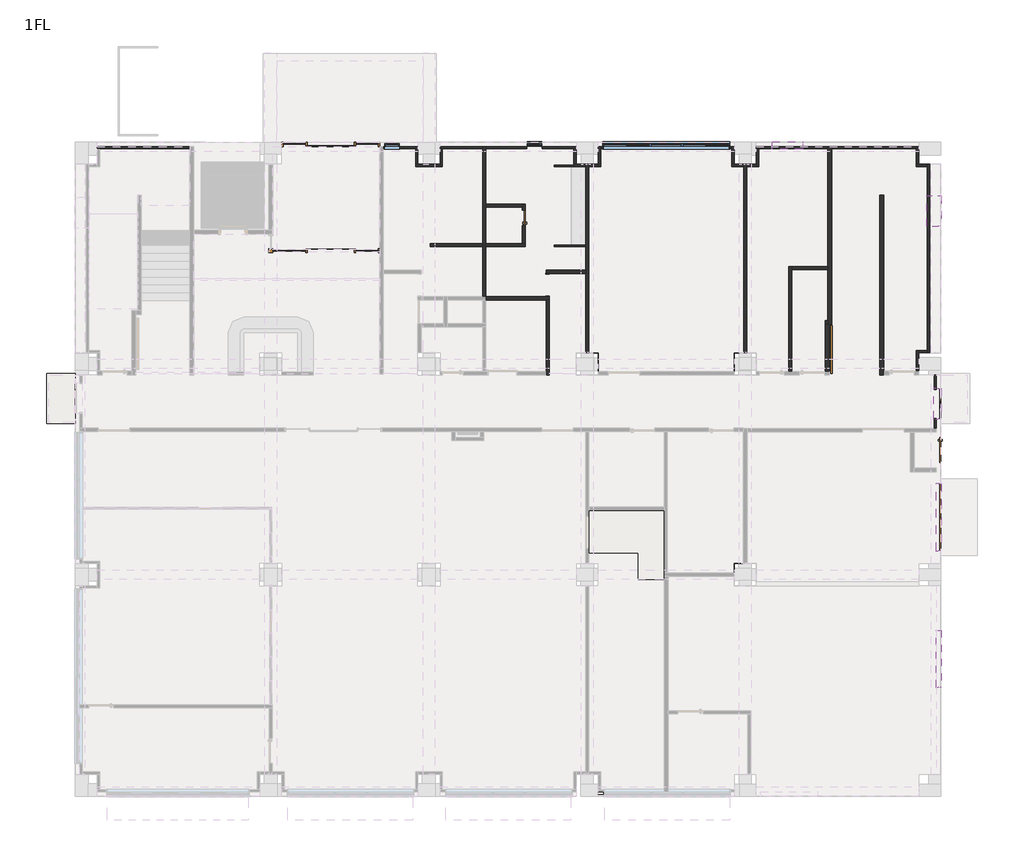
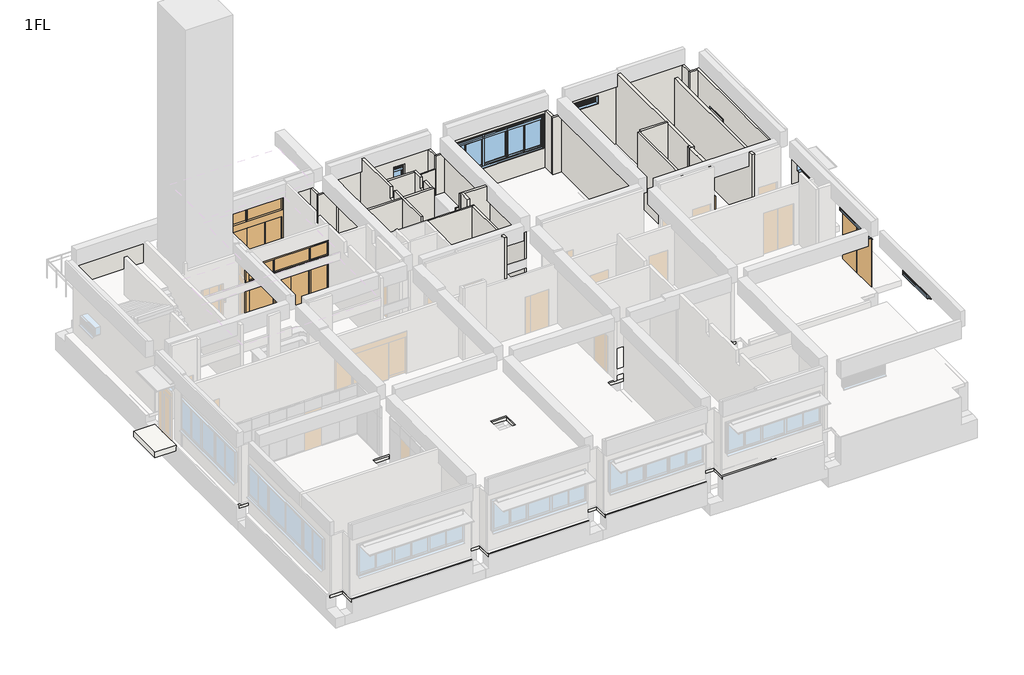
# One storey, part 3 of 7: 39 walls, 8 doors, 8 windows, 2 slabs.
"""IFC4 building model written with IfcOpenShell, lengths in millimetres."""

from ifc_helpers import new_model, si_unit, frame, origin, origin_with_axes, place, context, project, spatial, polyline, outline, extrude, faceted_brep, transform, mapped, element, save
from components import door_14d6dc4f, door_8a3642f0, door_1cafa6bb, door_cb1f44da, door_bdeb8628, door_377da531, sd1a_41ed0b53, sd5_d24b2fea, ag_01_14c91b01, ag_03_a886fbff, ag_04_25b0d088, ag_04_e8160d57, aw4_ca96b354, aw8_65036946, aw8_bb0577f5

model = new_model("IFC4")

# Units and contexts
model_context = context("Model", 3, world=origin())
ifc_project = project(units=[si_unit("LENGTHUNIT", "METRE", prefix="MILLI")], contexts=[model_context])

# Site, building, storey
site = spatial("IfcSite", under=ifc_project)
building = spatial("IfcBuilding", under=site)
storey = spatial("IfcBuildingStorey", under=building, Name="1FL", Elevation=0.0)

# Doors
placement = place(None, origin())
door_shape = door_14d6dc4f(model_context)
element("IfcDoor", 1, ObjectType="営_三方枠 : S1_850*2000", at=placement, inside=storey, context=model_context, shape_type="MappedRepresentation", body=[
    mapped(door_shape, transform((17500.0, 18990.25, 0.0), x_axis=(0.0, 1.0, 0.0), y_axis=(-1.0, 0.0, 0.0), z_axis=(0.0, 0.0, 1.0))),
])
door_2_shape = door_8a3642f0(model_context)
element("IfcDoor", 2, ObjectType="営_両開き扉 : SD2 2500*2585", at=placement, inside=storey, context=model_context, shape_type="MappedRepresentation", body=[
    mapped(door_2_shape, transform((32335.0, 10180.0, 0.0), x_axis=(0.0, -1.0, 0.0), y_axis=(1.0, 0.0, 0.0), z_axis=(0.0, 0.0, 1.0))),
])
door_3_shape = door_1cafa6bb(model_context)
element("IfcDoor", 3, ObjectType="営_片開き扉 : SD6 950*2685", at=placement, inside=storey, context=model_context, shape_type="MappedRepresentation", body=[
    mapped(door_3_shape, transform((32335.0, 12730.0, 0.0), x_axis=(0.0, -1.0, 0.0), y_axis=(1.0, 0.0, 0.0), z_axis=(0.0, 0.0, 1.0))),
])
door_4_shape = door_cb1f44da(model_context)
element("IfcDoor", 4, ObjectType="営_片開き扉 : SD7 600*2000", at=placement, inside=storey, context=model_context, shape_type="MappedRepresentation", body=[
    mapped(door_4_shape, transform((16600.0, 21540.0, 0.0), x_axis=(0.0, 1.0, 0.0), y_axis=(-1.0, 0.0, 0.0), z_axis=(0.0, 0.0, 1.0))),
])
door_5_shape = door_bdeb8628(model_context)
element("IfcDoor", 5, ObjectType="営_自動ドア 両引き+ランマ1b : SSD1b 4005*3100", at=placement, inside=storey, context=model_context, shape_type="MappedRepresentation", body=[
    mapped(door_5_shape, transform((9280.0, 20310.0, 0.0), x_axis=(1.0, 0.0, 0.0), y_axis=(0.0, 1.0, 0.0), z_axis=(0.0, 0.0, 1.0))),
])
door_6_shape = door_377da531(model_context)
element("IfcDoor", 6, ObjectType="営_自動ドア 両引き+ランマ : SSD1a 3600*3100", at=placement, inside=storey, context=model_context, shape_type="MappedRepresentation", body=[
    mapped(door_6_shape, transform((9280.0, 24325.0, 0.0), x_axis=(-1.0, 0.0, 0.0), y_axis=(0.0, -1.0, 0.0), z_axis=(0.0, 0.0, 1.0))),
])
sd1a_shape = sd1a_41ed0b53(model_context)
element("IfcDoor", 7, ObjectType="営_親子扉+ランマ : SD1a", at=placement, inside=storey, context=model_context, shape_type="MappedRepresentation", body=[
    mapped(sd1a_shape, transform((32335.0, 14480.0, 0.0), x_axis=(0.0, -1.0, 0.0), y_axis=(1.0, 0.0, 0.0), z_axis=(0.0, 0.0, 1.0))),
])
sd5_shape = sd5_d24b2fea(model_context)
element("IfcDoor", 8, ObjectType="営_随閉扉 B階段 1F : SD5", at=placement, inside=storey, context=model_context, shape_type="MappedRepresentation", body=[
    mapped(sd5_shape, transform((28100.0, 16540.0, 0.0), x_axis=(0.0, -1.0, 0.0), y_axis=(1.0, 0.0, 0.0), z_axis=(0.0, 0.0, 1.0))),
])

# Slabs
element("IfcSlab", 9, ObjectType="(外床)エントランス 300", at=placement, inside=storey, context=model_context, shape_type="SweptSolid", body=[
    extrude(outline(polyline([(-1505.0, 15630.0), (-420.0, 15630.0), (-420.0, 13730.0), (-1505.0, 13730.0), (-1505.0, 15630.0)])), frame((0.0, 0.0, -300.0), z_axis=(0.0, 0.0, 1.0), x_axis=(1.0, 0.0, 0.0)), (0.0, 0.0, 1.0), 300.0),
])
element("IfcSlab", 10, ObjectType="(RC)150", at=placement, inside=storey, context=model_context, shape_type="Brep", body=[
    faceted_brep([(19420.0, 15640.0, -250.0), (19420.0, 15755.0, -250.0), (19420.0, 16225.0, -250.0), (19420.0, 16420.0, -250.0), (19225.0, 16420.0, -250.0), (19000.0, 16420.0, -250.0), (19000.0, 23580.0, -250.0), (19225.0, 23580.0, -250.0), (19420.0, 23580.0, -250.0), (19420.0, 23950.0, -250.0), (19420.0, 24250.0, -250.0), (24580.0, 24250.0, -250.0), (24580.0, 23950.0, -250.0), (24580.0, 23580.0, -250.0), (24775.0, 23580.0, -250.0), (25000.0, 23580.0, -250.0), (25000.0, 16420.0, -250.0), (24775.0, 16420.0, -250.0), (24580.0, 16420.0, -250.0), (24580.0, 16225.0, -250.0), (24580.0, 15755.0, -250.0), (24580.0, 15640.0, -250.0), (19420.0, 16420.0, -100.0), (19420.0, 15640.0, -100.0), (24580.0, 15640.0, -100.0), (24580.0, 16420.0, -100.0), (24775.0, 16420.0, -100.0), (25000.0, 16420.0, -100.0), (25000.0, 23580.0, -100.0), (24775.0, 23580.0, -100.0), (24580.0, 23580.0, -100.0), (24580.0, 23950.0, -100.0), (24580.0, 24250.0, -100.0), (19420.0, 24250.0, -100.0), (19420.0, 23950.0, -100.0), (19420.0, 23580.0, -100.0), (19225.0, 23580.0, -100.0), (19000.0, 23580.0, -100.0), (19000.0, 16420.0, -100.0), (19225.0, 16420.0, -100.0), (25000.0, 16420.0, -160.0), (25000.0, 23580.0, -160.0), (19420.0, 15640.0, -160.0), (24580.0, 15640.0, -160.0), (19000.0, 16420.0, -160.0), (19000.0, 23580.0, -160.0)], [[[0, 1, 2, 3, 4, 5, 6, 7, 8, 9, 10, 11, 12, 13, 14, 15, 16, 17, 18, 19, 20, 21]], [[22, 23, 24, 25, 26, 27, 28, 29, 30, 31, 32, 33, 34, 35, 36, 37, 38, 39]], [[27, 40, 16, 15, 41, 28]], [[23, 42, 0, 21, 43, 24]], [[5, 44, 38, 37, 45, 6]], [[10, 33, 32, 11]], [[22, 3, 2, 1, 0, 42, 23]], [[3, 22, 39, 38, 44, 5, 4]], [[18, 25, 24, 43, 21, 20, 19]], [[25, 18, 17, 16, 40, 27, 26]], [[8, 35, 34, 33, 10, 9]], [[35, 8, 7, 6, 45, 37, 36]], [[13, 30, 29, 28, 41, 15, 14]], [[30, 13, 12, 11, 32, 31]]]),
    faceted_brep([(19000.0, 13500.0, -250.0), (19245.0, 13500.0, -250.0), (24755.0, 13500.0, -250.0), (25175.0, 13500.0, -250.0), (25175.0, 8420.0, -250.0), (24755.0, 8420.0, -250.0), (24580.0, 8420.0, -250.0), (24580.0, 8245.0, -250.0), (24580.0, 7825.0, -250.0), (22175.0, 7825.0, -250.0), (22175.0, 7775.0, -250.0), (22175.0, 5508.0, -250.0), (22175.0, 5158.0, -250.0), (22175.0, 2835.0, -250.0), (22175.0, 2485.0, -250.0), (22175.0, 50.0, -250.0), (22175.0, -335.0, -250.0), (19420.0, -335.0, -250.0), (19420.0, 50.0, -250.0), (19420.0, 420.0, -250.0), (19225.0, 420.0, -250.0), (18755.0, 420.0, -250.0), (18580.0, 420.0, -250.0), (18580.0, 70.0, -250.0), (18580.0, -335.0, -250.0), (13420.0, -335.0, -250.0), (13420.0, 70.0, -250.0), (13420.0, 420.0, -250.0), (13245.0, 420.0, -250.0), (12755.0, 420.0, -250.0), (12580.0, 420.0, -250.0), (12580.0, 70.0, -250.0), (12580.0, -335.0, -250.0), (7420.0, -335.0, -250.0), (7420.0, 70.0, -250.0), (7420.0, 420.0, -250.0), (7245.0, 420.0, -250.0), (6755.0, 420.0, -250.0), (6580.0, 420.0, -250.0), (6580.0, 70.0, -250.0), (6580.0, -335.0, -250.0), (420.0, -335.0, -250.0), (420.0, 70.0, -250.0), (420.0, 420.0, -250.0), (70.0, 420.0, -250.0), (-250.0, 420.0, -250.0), (-250.0, 7580.0, -250.0), (70.0, 7580.0, -250.0), (420.0, 7580.0, -250.0), (420.0, 7755.0, -250.0), (420.0, 8245.0, -250.0), (420.0, 8420.0, -250.0), (70.0, 8420.0, -250.0), (-250.0, 8420.0, -250.0), (-250.0, 13500.0, -250.0), (70.0, 13500.0, -250.0), (6755.0, 13500.0, -250.0), (7245.0, 13500.0, -250.0), (12755.0, 13500.0, -250.0), (13245.0, 13500.0, -250.0), (18755.0, 13500.0, -250.0), (7420.0, 7580.0, -250.0), (7420.0, 7755.0, -250.0), (7420.0, 8245.0, -250.0), (7420.0, 8420.0, -250.0), (7245.0, 8420.0, -250.0), (6755.0, 8420.0, -250.0), (6580.0, 8420.0, -250.0), (6580.0, 8245.0, -250.0), (6580.0, 7755.0, -250.0), (6580.0, 7580.0, -250.0), (6755.0, 7580.0, -250.0), (7245.0, 7580.0, -250.0), (13420.0, 7580.0, -250.0), (13420.0, 7755.0, -250.0), (13420.0, 8245.0, -250.0), (13420.0, 8420.0, -250.0), (13245.0, 8420.0, -250.0), (12755.0, 8420.0, -250.0), (12580.0, 8420.0, -250.0), (12580.0, 8245.0, -250.0), (12580.0, 7755.0, -250.0), (12580.0, 7580.0, -250.0), (12755.0, 7580.0, -250.0), (13245.0, 7580.0, -250.0), (19420.0, 7580.0, -250.0), (19420.0, 7775.0, -250.0), (19420.0, 8245.0, -250.0), (19420.0, 8420.0, -250.0), (19245.0, 8420.0, -250.0), (18755.0, 8420.0, -250.0), (18580.0, 8420.0, -250.0), (18580.0, 8245.0, -250.0), (18580.0, 7755.0, -250.0), (18580.0, 7580.0, -250.0), (18755.0, 7580.0, -250.0), (19225.0, 7580.0, -250.0), (25175.0, 13500.0, -100.0), (25000.0, 13500.0, -100.0), (19000.0, 13500.0, -100.0), (-250.0, 13500.0, -100.0), (-250.0, 8420.0, -100.0), (420.0, 8420.0, -100.0), (420.0, 7580.0, -100.0), (-250.0, 7580.0, -100.0), (-250.0, 420.0, -100.0), (420.0, 420.0, -100.0), (420.0, -335.0, -100.0), (6580.0, -335.0, -100.0), (6580.0, 420.0, -100.0), (7420.0, 420.0, -100.0), (7420.0, -335.0, -100.0), (12580.0, -335.0, -100.0), (12580.0, 420.0, -100.0), (13420.0, 420.0, -100.0), (13420.0, -335.0, -100.0), (18580.0, -335.0, -100.0), (18580.0, 420.0, -100.0), (18755.0, 420.0, -100.0), (19225.0, 420.0, -100.0), (19420.0, 420.0, -100.0), (19420.0, -335.0, -100.0), (22175.0, -335.0, -100.0), (22175.0, -250.0, -100.0), (22175.0, 7825.0, -100.0), (24580.0, 7825.0, -100.0), (24580.0, 8000.0, -100.0), (24580.0, 8420.0, -100.0), (25000.0, 8420.0, -100.0), (25175.0, 8420.0, -100.0), (7420.0, 8420.0, -100.0), (7420.0, 7580.0, -100.0), (6580.0, 7580.0, -100.0), (6580.0, 8420.0, -100.0), (13420.0, 8420.0, -100.0), (13420.0, 7580.0, -100.0), (12580.0, 7580.0, -100.0), (12580.0, 8420.0, -100.0), (19420.0, 8420.0, -100.0), (19420.0, 7580.0, -100.0), (19225.0, 7580.0, -100.0), (18755.0, 7580.0, -100.0), (18580.0, 7580.0, -100.0), (18580.0, 8420.0, -100.0), (25175.0, 13500.0, -160.0), (25175.0, 8420.0, -160.0), (22175.0, 7825.0, -160.0), (24580.0, 7825.0, -160.0), (-250.0, 13500.0, -160.0)], [[[0, 1, 2, 3, 4, 5, 6, 7, 8, 9, 10, 11, 12, 13, 14, 15, 16, 17, 18, 19, 20, 21, 22, 23, 24, 25, 26, 27, 28, 29, 30, 31, 32, 33, 34, 35, 36, 37, 38, 39, 40, 41, 42, 43, 44, 45, 46, 47, 48, 49, 50, 51, 52, 53, 54, 55, 56, 57, 58, 59, 60], [61, 62, 63, 64, 65, 66, 67, 68, 69, 70, 71, 72], [73, 74, 75, 76, 77, 78, 79, 80, 81, 82, 83, 84], [85, 86, 87, 88, 89, 90, 91, 92, 93, 94, 95, 96]], [[97, 98, 99, 100, 101, 102, 103, 104, 105, 106, 107, 108, 109, 110, 111, 112, 113, 114, 115, 116, 117, 118, 119, 120, 121, 122, 123, 124, 125, 126, 127, 128, 129], [130, 131, 132, 133], [134, 135, 136, 137], [138, 139, 140, 141, 142, 143]], [[3, 2, 1, 0, 99, 98, 97, 144]], [[3, 144, 97, 129, 145, 4]], [[124, 146, 9, 8, 147, 125]], [[16, 15, 14, 13, 12, 11, 10, 9, 146, 124, 123, 122]], [[40, 108, 107, 41]], [[111, 33, 32, 112]], [[115, 25, 24, 116]], [[16, 122, 121, 17]], [[100, 148, 54, 53, 101]], [[45, 105, 104, 46]], [[0, 60, 59, 58, 57, 56, 55, 54, 148, 100, 99]], [[110, 35, 34, 33, 111]], [[38, 109, 108, 40, 39]], [[109, 38, 37, 36, 35, 110]], [[114, 27, 26, 25, 115]], [[30, 113, 112, 32, 31]], [[113, 30, 29, 28, 27, 114]], [[120, 19, 18, 17, 121]], [[22, 117, 116, 24, 23]], [[117, 22, 21, 20, 19, 120, 119, 118]], [[106, 43, 42, 41, 107]], [[43, 106, 105, 45, 44]], [[61, 131, 130, 64, 63, 62]], [[131, 61, 72, 71, 70, 132]], [[132, 70, 69, 68, 67, 133]], [[133, 67, 66, 65, 64, 130]], [[73, 135, 134, 76, 75, 74]], [[135, 73, 84, 83, 82, 136]], [[136, 82, 81, 80, 79, 137]], [[137, 79, 78, 77, 76, 134]], [[85, 139, 138, 88, 87, 86]], [[139, 85, 96, 95, 94, 142, 141, 140]], [[142, 94, 93, 92, 91, 143]], [[143, 91, 90, 89, 88, 138]], [[6, 127, 126, 125, 147, 8, 7]], [[127, 6, 5, 4, 145, 129, 128]], [[48, 103, 102, 51, 50, 49]], [[103, 48, 47, 46, 104]], [[51, 102, 101, 53, 52]]]),
])

# Walls
element("IfcWall", 11, ObjectType="(内壁)W4", at=placement, inside=storey, context=model_context, shape_type="Brep", body=[
    faceted_brep([(19060.0, 16420.0, 0.0), (19060.0, 23490.0, 0.0), (19060.0, 23580.0, 0.0), (19060.0, 23580.0, 3100.0), (19060.0, 23490.0, 3100.0), (19060.0, 16420.0, 3100.0), (18940.0, 23580.0, 0.0), (18940.0, 23490.0, 0.0), (18940.0, 19550.0, 0.0), (18940.0, 19430.0, 0.0), (18940.0, 16420.0, 0.0), (18940.0, 16420.0, 3100.0), (18940.0, 19430.0, 3100.0), (18940.0, 19550.0, 3100.0), (18940.0, 23490.0, 3100.0), (18940.0, 23580.0, 3100.0)], [[[0, 1, 2, 3, 4, 5]], [[6, 7, 8, 9, 10, 11, 12, 13, 14, 15]], [[0, 10, 9, 8, 7, 6, 2, 1]], [[10, 0, 5, 11]], [[2, 6, 15, 3]], [[5, 4, 3, 15, 14, 13, 12, 11]]]),
])
element("IfcWall", 12, ObjectType="(内壁)W3", at=placement, inside=storey, context=model_context, shape_type="Brep", body=[
    faceted_brep([(25060.0, 16420.0, 0.0), (25060.0, 23490.0, 0.0), (25060.0, 23580.0, 0.0), (25060.0, 23580.0, 3100.0), (25060.0, 23490.0, 3100.0), (25060.0, 16420.0, 3100.0), (24940.0, 23580.0, 0.0), (24940.0, 23490.0, 0.0), (24940.0, 16420.0, 0.0), (24940.0, 16420.0, 3100.0), (24940.0, 23490.0, 3100.0), (24940.0, 23580.0, 3100.0)], [[[0, 1, 2, 3, 4, 5]], [[6, 7, 8, 9, 10, 11]], [[0, 8, 7, 6, 2, 1]], [[8, 0, 5, 9]], [[2, 6, 11, 3]], [[5, 4, 3, 11, 10, 9]]]),
])
element("IfcWall", 13, ObjectType="(内壁)150_RC", at=placement, inside=storey, context=model_context, shape_type="Brep", body=[
    faceted_brep([(28125.0, 24250.0, 0.0), (28125.0, 19695.0, 0.0), (28125.0, 19575.0, 0.0), (28125.0, 17645.0, 0.0), (28125.0, 17495.0, 0.0), (28125.0, 17495.0, 3850.0), (28125.0, 17645.0, 3850.0), (28125.0, 24250.0, 3850.0), (28275.0, 24250.0, 0.0), (28275.0, 24250.0, 3850.0), (28275.0, 17495.0, 3850.0), (28275.0, 17495.0, 0.0), (28175.0, 17495.0, 0.0), (28175.0, 17495.0, 3850.0)], [[[0, 1, 2, 3, 4, 5, 6, 7]], [[8, 9, 10, 11]], [[4, 3, 2, 1, 0, 8, 11, 12]], [[7, 6, 5, 13, 10, 9]], [[5, 4, 12, 11, 10, 13]], [[0, 7, 9, 8]]]),
])
element("IfcWall", 14, ObjectType="(内壁)150_RC", at=placement, inside=storey, context=model_context, shape_type="SweptSolid", body=[
    extrude(outline(polyline([(28025.0, 17645.0), (28125.0, 17645.0), (28125.0, 17495.0), (28025.0, 17495.0), (28025.0, 17645.0)])), origin_with_axes(), (0.0, 0.0, 1.0), 3850.0),
])
element("IfcWall", 15, ObjectType="(内壁)150_RC", at=placement, inside=storey, context=model_context, shape_type="Brep", body=[
    faceted_brep([(28025.0, 17495.0, 0.0), (28025.0, 15700.0, 0.0), (28025.0, 15700.0, 3850.0), (28025.0, 15825.0, 3850.0), (28025.0, 15825.0, 3150.0), (28025.0, 16175.0, 3150.0), (28025.0, 16175.0, 3850.0), (28025.0, 17495.0, 3850.0), (28175.0, 15700.0, 0.0), (28175.0, 17495.0, 0.0), (28175.0, 17495.0, 3850.0), (28175.0, 16175.0, 3850.0), (28175.0, 16175.0, 3150.0), (28175.0, 15825.0, 3150.0), (28175.0, 15825.0, 3850.0), (28175.0, 15700.0, 3850.0), (28125.0, 17495.0, 0.0), (28125.0, 17495.0, 3850.0)], [[[0, 1, 2, 3, 4, 5, 6, 7]], [[8, 9, 10, 11, 12, 13, 14, 15]], [[1, 0, 16, 9, 8]], [[2, 15, 14, 3]], [[10, 17, 7, 6, 11]], [[0, 7, 17, 10, 9, 16]], [[2, 1, 8, 15]], [[13, 4, 3, 14]], [[4, 13, 12, 5]], [[5, 12, 11, 6]]]),
])
element("IfcWall", 16, ObjectType="(内壁)150_RC", at=placement, inside=storey, context=model_context, shape_type="Brep", body=[
    faceted_brep([(30105.0, 22410.0, 0.0), (30105.0, 15580.0, 0.0), (30105.0, 15580.0, 3920.0), (30105.0, 15825.0, 3920.0), (30105.0, 15825.0, 3150.0), (30105.0, 16175.0, 3150.0), (30105.0, 16175.0, 3920.0), (30105.0, 22410.0, 3920.0), (30255.0, 15580.0, 0.0), (30255.0, 15730.0, 0.0), (30255.0, 22410.0, 0.0), (30255.0, 22410.0, 3920.0), (30255.0, 16175.0, 3920.0), (30255.0, 16175.0, 3150.0), (30255.0, 15825.0, 3150.0), (30255.0, 15825.0, 3920.0), (30255.0, 15580.0, 3920.0), (30255.0, 15580.0, 3850.0)], [[[0, 1, 2, 3, 4, 5, 6, 7]], [[8, 9, 10, 11, 12, 13, 14, 15, 16, 17]], [[1, 0, 10, 9, 8]], [[11, 7, 6, 12]], [[2, 16, 15, 3]], [[0, 7, 11, 10]], [[14, 4, 3, 15]], [[4, 14, 13, 5]], [[5, 13, 12, 6]], [[2, 1, 8, 17, 16]]]),
])
element("IfcWall", 17, ObjectType="(内壁)W4", at=placement, inside=storey, context=model_context, shape_type="Brep", body=[
    faceted_brep([(15040.0, 24250.0, 0.0), (15040.0, 24160.0, 0.0), (15040.0, 20570.0, 0.0), (15040.0, 20450.0, 0.0), (15040.0, 18550.0, 0.0), (15040.0, 18550.0, 3250.0), (15040.0, 18845.0, 3250.0), (15040.0, 18845.0, 3850.0), (15040.0, 20450.0, 3850.0), (15040.0, 20570.0, 3850.0), (15040.0, 21165.0, 3850.0), (15040.0, 21165.0, 3250.0), (15040.0, 21515.0, 3250.0), (15040.0, 21515.0, 3850.0), (15040.0, 24050.0, 3850.0), (15040.0, 24050.0, 3150.0), (15040.0, 24250.0, 3150.0), (15040.0, 24250.0, 3100.0), (15160.0, 18550.0, 0.0), (15160.0, 20450.0, 0.0), (15160.0, 20570.0, 0.0), (15160.0, 21950.0, 0.0), (15160.0, 22070.0, 0.0), (15160.0, 24160.0, 0.0), (15160.0, 24250.0, 0.0), (15160.0, 24250.0, 3100.0), (15160.0, 24250.0, 3150.0), (15160.0, 24050.0, 3150.0), (15160.0, 24050.0, 3850.0), (15160.0, 22070.0, 3850.0), (15160.0, 21950.0, 3850.0), (15160.0, 21515.0, 3850.0), (15160.0, 21515.0, 3250.0), (15160.0, 21165.0, 3250.0), (15160.0, 21165.0, 3850.0), (15160.0, 20570.0, 3850.0), (15160.0, 20450.0, 3850.0), (15160.0, 18845.0, 3850.0), (15160.0, 18845.0, 3250.0), (15160.0, 18550.0, 3250.0)], [[[0, 1, 2, 3, 4, 5, 6, 7, 8, 9, 10, 11, 12, 13, 14, 15, 16, 17]], [[18, 19, 20, 21, 22, 23, 24, 25, 26, 27, 28, 29, 30, 31, 32, 33, 34, 35, 36, 37, 38, 39]], [[4, 3, 2, 1, 0, 24, 23, 22, 21, 20, 19, 18]], [[28, 14, 13, 31, 30, 29]], [[7, 37, 36, 35, 34, 10, 9, 8]], [[24, 0, 17, 16, 26, 25]], [[27, 15, 14, 28]], [[15, 27, 26, 16]], [[38, 6, 5, 39]], [[6, 38, 37, 7]], [[33, 11, 10, 34]], [[11, 33, 32, 12]], [[12, 32, 31, 13]], [[4, 18, 39, 5]]]),
])
element("IfcWall", 18, ObjectType="(内壁)W4", at=placement, inside=storey, context=model_context, shape_type="Brep", body=[
    faceted_brep([(17440.0, 18430.0, 0.0), (17440.0, 15700.0, 0.0), (17440.0, 15580.0, 0.0), (17440.0, 15580.0, 3850.0), (17440.0, 15700.0, 3850.0), (17440.0, 15825.0, 3850.0), (17440.0, 15825.0, 3150.0), (17440.0, 16175.0, 3150.0), (17440.0, 16175.0, 3850.0), (17440.0, 18430.0, 3850.0), (17560.0, 15580.0, 0.0), (17560.0, 18430.0, 0.0), (17560.0, 18430.0, 3850.0), (17560.0, 16175.0, 3850.0), (17560.0, 16175.0, 3150.0), (17560.0, 15825.0, 3150.0), (17560.0, 15825.0, 3850.0), (17560.0, 15580.0, 3850.0)], [[[0, 1, 2, 3, 4, 5, 6, 7, 8, 9]], [[10, 11, 12, 13, 14, 15, 16, 17]], [[2, 1, 0, 11, 10]], [[12, 9, 8, 13]], [[3, 17, 16, 5, 4]], [[0, 9, 12, 11]], [[3, 2, 10, 17]], [[15, 6, 5, 16]], [[6, 15, 14, 7]], [[7, 14, 13, 8]]]),
])
element("IfcWall", 19, ObjectType="(内壁)W4", at=placement, inside=storey, context=model_context, shape_type="SweptSolid", body=[
    extrude(outline(polyline([(0.0, 13040.0), (0.0, 15040.0), (3850.0, 15040.0), (3850.0, 13225.0), (3100.0, 13225.0), (3100.0, 13040.0), (0.0, 13040.0)])), frame((0.0, 20450.0, 0.0), z_axis=(0.0, 1.0, 0.0), x_axis=(0.0, 0.0, 1.0)), (0.0, 0.0, 1.0), 120.0),
])
element("IfcWall", 20, ObjectType="(内壁)W3", at=placement, inside=storey, context=model_context, shape_type="Brep", body=[
    faceted_brep([(16660.0, 20570.0, 3850.0), (16660.0, 20570.0, 0.0), (16660.0, 21240.0, 0.0), (16660.0, 21240.0, 2000.0), (16660.0, 21840.0, 2000.0), (16660.0, 21840.0, 0.0), (16660.0, 22070.0, 0.0), (16660.0, 22070.0, 3850.0), (16660.0, 21515.0, 3850.0), (16660.0, 21515.0, 3250.0), (16660.0, 21165.0, 3250.0), (16660.0, 21165.0, 3850.0), (16540.0, 20570.0, 0.0), (16540.0, 20570.0, 3850.0), (16540.0, 21165.0, 3850.0), (16540.0, 21165.0, 3250.0), (16540.0, 21515.0, 3250.0), (16540.0, 21515.0, 3850.0), (16540.0, 21950.0, 3850.0), (16540.0, 22070.0, 3850.0), (16540.0, 22070.0, 0.0), (16540.0, 21950.0, 0.0), (16540.0, 21840.0, 0.0), (16540.0, 21840.0, 2000.0), (16540.0, 21240.0, 2000.0), (16540.0, 21240.0, 0.0)], [[[0, 1, 2, 3, 4, 5, 6, 7, 8, 9, 10, 11]], [[12, 13, 14, 15, 16, 17, 18, 19, 20, 21, 22, 23, 24, 25]], [[1, 12, 25, 2]], [[20, 6, 5, 22, 21]], [[13, 0, 11, 14]], [[7, 19, 18, 17, 8]], [[1, 0, 13, 12]], [[7, 6, 20, 19]], [[25, 24, 3, 2]], [[23, 22, 5, 4]], [[24, 23, 4, 3]], [[10, 15, 14, 11]], [[15, 10, 9, 16]], [[16, 9, 8, 17]]]),
])
element("IfcWall", 21, ObjectType="(内壁)W3", at=placement, inside=storey, context=model_context, shape_type="SweptSolid", body=[
    extrude(outline(polyline([(15160.0, 22070.0), (16540.0, 22070.0), (16540.0, 21950.0), (15160.0, 21950.0), (15160.0, 22070.0)])), origin_with_axes(), (0.0, 0.0, 1.0), 3850.0),
])
element("IfcWall", 22, ObjectType="(内壁)W4", at=placement, inside=storey, context=model_context, shape_type="Brep", body=[
    faceted_brep([(17440.0, 19430.0, 0.0), (17560.0, 19430.0, 0.0), (18940.0, 19430.0, 0.0), (18940.0, 19430.0, 3100.0), (18775.0, 19430.0, 3100.0), (18775.0, 19430.0, 3850.0), (17440.0, 19430.0, 3850.0), (18940.0, 19550.0, 0.0), (17440.0, 19550.0, 0.0), (17440.0, 19550.0, 3850.0), (18775.0, 19550.0, 3850.0), (18775.0, 19550.0, 3100.0), (18940.0, 19550.0, 3100.0)], [[[0, 1, 2, 3, 4, 5, 6]], [[7, 8, 9, 10, 11, 12]], [[2, 1, 0, 8, 7]], [[9, 6, 5, 10]], [[2, 7, 12, 3]], [[11, 4, 3, 12]], [[4, 11, 10, 5]], [[0, 6, 9, 8]]]),
])
element("IfcWall", 23, ObjectType="(内壁)W3", at=placement, inside=storey, context=model_context, shape_type="Brep", body=[
    faceted_brep([(26640.0, 19695.0, 0.0), (26640.0, 15700.0, 0.0), (26640.0, 15700.0, 3850.0), (26640.0, 15825.0, 3850.0), (26640.0, 15825.0, 3150.0), (26640.0, 16175.0, 3150.0), (26640.0, 16175.0, 3850.0), (26640.0, 19695.0, 3850.0), (26760.0, 15700.0, 0.0), (26760.0, 19575.0, 0.0), (26760.0, 19695.0, 0.0), (26760.0, 19695.0, 3850.0), (26760.0, 16175.0, 3850.0), (26760.0, 16175.0, 3150.0), (26760.0, 15825.0, 3150.0), (26760.0, 15825.0, 3850.0), (26760.0, 15700.0, 3850.0)], [[[0, 1, 2, 3, 4, 5, 6, 7]], [[8, 9, 10, 11, 12, 13, 14, 15, 16]], [[1, 0, 10, 9, 8]], [[11, 7, 6, 12]], [[2, 16, 15, 3]], [[0, 7, 11, 10]], [[2, 1, 8, 16]], [[14, 4, 3, 15]], [[4, 14, 13, 5]], [[5, 13, 12, 6]]]),
])
element("IfcWall", 24, ObjectType="(内壁)W3", at=placement, inside=storey, context=model_context, shape_type="Brep", body=[
    faceted_brep([(26760.0, 19575.0, 0.0), (28125.0, 19575.0, 0.0), (28125.0, 19575.0, 3940.0), (26760.0, 19575.0, 3940.0), (26760.0, 19695.0, 0.0), (26760.0, 19695.0, 3850.0), (26760.0, 19695.0, 3940.0), (28125.0, 19695.0, 3940.0), (28125.0, 19695.0, 0.0)], [[[0, 1, 2, 3]], [[4, 5, 6, 7, 8]], [[1, 0, 4, 8]], [[3, 2, 7, 6]], [[0, 3, 6, 5, 4]], [[2, 1, 8, 7]]]),
])
element("IfcWall", 25, ObjectType="(内壁)120_部屋境界OFF", at=placement, inside=storey, context=model_context, shape_type="Brep", body=[
    faceted_brep([(17560.0, 18550.0, 0.0), (17560.0, 18555.25, 0.0), (17560.0, 18555.25, 2010.0), (17560.0, 19425.25, 2010.0), (17560.0, 19425.25, 0.0), (17560.0, 19430.0, 0.0), (17560.0, 19430.0, 3950.0), (17560.0, 18845.0, 3950.0), (17560.0, 18845.0, 3250.0), (17560.0, 18550.0, 3250.0), (17440.0, 18555.25, 0.0), (17440.0, 18550.0, 0.0), (17440.0, 18550.0, 3250.0), (17440.0, 18845.0, 3250.0), (17440.0, 18845.0, 3950.0), (17440.0, 19430.0, 3950.0), (17440.0, 19430.0, 3850.0), (17440.0, 19430.0, 0.0), (17440.0, 19425.25, 0.0), (17440.0, 19425.25, 2010.0), (17440.0, 18555.25, 2010.0)], [[[0, 1, 2, 3, 4, 5, 6, 7, 8, 9]], [[10, 11, 12, 13, 14, 15, 16, 17, 18, 19, 20]], [[0, 11, 10, 1]], [[5, 4, 18, 17]], [[6, 15, 14, 7]], [[11, 0, 9, 12]], [[6, 5, 17, 16, 15]], [[20, 2, 1, 10]], [[2, 20, 19, 3]], [[3, 19, 18, 4]], [[8, 13, 12, 9]], [[13, 8, 7, 14]]]),
])
element("IfcWall", 26, ObjectType="(内壁)W3", at=placement, inside=storey, context=model_context, shape_type="Brep", body=[
    faceted_brep([(15160.0, 20450.0, 0.0), (16660.0, 20450.0, 0.0), (16660.0, 20450.0, 3850.0), (15160.0, 20450.0, 3850.0), (15160.0, 20570.0, 0.0), (15160.0, 20570.0, 3850.0), (16540.0, 20570.0, 3850.0), (16660.0, 20570.0, 3850.0), (16660.0, 20570.0, 0.0), (16540.0, 20570.0, 0.0)], [[[0, 1, 2, 3]], [[4, 5, 6, 7, 8, 9]], [[1, 0, 4, 9, 8]], [[3, 2, 7, 6, 5]], [[2, 1, 8, 7]], [[0, 3, 5, 4]]]),
])
element("IfcWall", 27, ObjectType="(内壁)ブース壁", at=placement, inside=storey, context=model_context, shape_type="SweptSolid", body=[
    extrude(outline(polyline([(17760.0, 20500.0), (18940.0, 20500.0), (18940.0, 20450.0), (17760.0, 20450.0), (17760.0, 20500.0)])), origin_with_axes(), (0.0, 0.0, 1.0), 2400.0),
])
element("IfcWall", 28, ObjectType="(内壁)ブース壁", at=placement, inside=storey, context=model_context, shape_type="SweptSolid", body=[
    extrude(outline(polyline([(17750.0, 23540.0), (18490.0, 23540.0), (18490.0, 23490.0), (17750.0, 23490.0), (17750.0, 23540.0)])), origin_with_axes(), (0.0, 0.0, 1.0), 2400.0),
])
element("IfcWall", 29, ObjectType="(内壁)W5", at=placement, inside=storey, context=model_context, shape_type="SweptSolid", body=[
    extrude(outline(polyline([(13555.0, 3100.0), (15580.0, 3100.0), (15580.0, 0.0), (15035.0, 0.0), (15035.0, 2570.0), (13925.0, 2570.0), (13925.0, 0.0), (13555.0, 0.0), (13555.0, 3100.0)]), holes=[polyline([(13895.0, 3070.0), (13895.0, 2650.0), (15075.0, 2650.0), (15075.0, 3070.0), (13895.0, 3070.0)])]), frame((32160.0, 0.0, 0.0), z_axis=(1.0, 0.0, 0.0), x_axis=(0.0, 1.0, 0.0)), (0.0, 0.0, 1.0), 90.0),
])
element("IfcWall", 30, ObjectType="(内壁)W5", at=placement, inside=storey, context=model_context, shape_type="Brep", body=[
    faceted_brep([(3925.0, 24250.0, 0.0), (420.0, 24250.0, 0.0), (420.0, 24250.0, 3100.0), (3925.0, 24250.0, 3100.0), (3925.0, 24160.0, 0.0), (3925.0, 24160.0, 3100.0), (510.0, 24160.0, 3100.0), (420.0, 24160.0, 3100.0), (420.0, 24160.0, 0.0), (510.0, 24160.0, 0.0)], [[[0, 1, 2, 3]], [[4, 5, 6, 7, 8, 9]], [[1, 0, 4, 9, 8]], [[3, 2, 7, 6, 5]], [[0, 3, 5, 4]], [[2, 1, 8, 7]]]),
])
element("IfcWall", 31, ObjectType="(内壁)W5", at=placement, inside=storey, context=model_context, shape_type="Brep", body=[
    faceted_brep([(13420.0, 24250.0, 0.0), (13420.0, 24250.0, 3100.0), (15040.0, 24250.0, 3100.0), (15040.0, 24250.0, 0.0), (13420.0, 24160.0, 3100.0), (13420.0, 24160.0, 0.0), (13510.0, 24160.0, 0.0), (15040.0, 24160.0, 0.0), (15040.0, 24160.0, 3100.0), (13510.0, 24160.0, 3100.0)], [[[0, 1, 2, 3]], [[4, 5, 6, 7, 8, 9]], [[5, 0, 3, 7, 6]], [[1, 4, 9, 8, 2]], [[1, 0, 5, 4]], [[3, 2, 8, 7]]]),
    faceted_brep([(18580.0, 24250.0, 3100.0), (18580.0, 24250.0, 0.0), (17290.0, 24250.0, 0.0), (17290.0, 24250.0, 2720.0), (16710.0, 24250.0, 2720.0), (16710.0, 24250.0, 0.0), (15160.0, 24250.0, 0.0), (15160.0, 24250.0, 3100.0), (18580.0, 24160.0, 0.0), (18580.0, 24160.0, 3100.0), (18490.0, 24160.0, 3100.0), (15160.0, 24160.0, 3100.0), (15160.0, 24160.0, 0.0), (16710.0, 24160.0, 0.0), (16710.0, 24160.0, 2720.0), (17290.0, 24160.0, 2720.0), (17290.0, 24160.0, 0.0), (18490.0, 24160.0, 0.0)], [[[0, 1, 2, 3, 4, 5, 6, 7]], [[8, 9, 10, 11, 12, 13, 14, 15, 16, 17]], [[1, 8, 17, 16, 2]], [[5, 13, 12, 6]], [[9, 0, 7, 11, 10]], [[1, 0, 9, 8]], [[7, 6, 12, 11]], [[4, 14, 13, 5]], [[15, 3, 2, 16]], [[14, 4, 3, 15]]]),
])
element("IfcWall", 32, ObjectType="(内壁)W5", at=placement, inside=storey, context=model_context, shape_type="Brep", body=[
    faceted_brep([(13420.0, 24160.0, 0.0), (13420.0, 23580.0, 0.0), (13420.0, 23490.0, 0.0), (13420.0, 23490.0, 3100.0), (13420.0, 23580.0, 3100.0), (13420.0, 24160.0, 3100.0), (13510.0, 24160.0, 0.0), (13510.0, 24160.0, 3100.0), (13510.0, 23490.0, 3100.0), (13510.0, 23490.0, 0.0)], [[[0, 1, 2, 3, 4, 5]], [[6, 7, 8, 9]], [[2, 1, 0, 6, 9]], [[5, 4, 3, 8, 7]], [[0, 5, 7, 6]], [[3, 2, 9, 8]]]),
])
element("IfcWall", 33, ObjectType="(内壁)W5", at=placement, inside=storey, context=model_context, shape_type="Brep", body=[
    faceted_brep([(13420.0, 23580.0, 0.0), (12580.0, 23580.0, 0.0), (12490.0, 23580.0, 0.0), (12490.0, 23580.0, 3100.0), (12580.0, 23580.0, 3100.0), (13420.0, 23580.0, 3100.0), (13420.0, 23490.0, 0.0), (13420.0, 23490.0, 3100.0), (12490.0, 23490.0, 3100.0), (12490.0, 23490.0, 0.0)], [[[0, 1, 2, 3, 4, 5]], [[6, 7, 8, 9]], [[2, 1, 0, 6, 9]], [[5, 4, 3, 8, 7]], [[0, 5, 7, 6]], [[3, 2, 9, 8]]]),
])
element("IfcWall", 34, ObjectType="(内壁)W5", at=placement, inside=storey, context=model_context, shape_type="Brep", body=[
    faceted_brep([(12580.0, 23580.0, 0.0), (12580.0, 24250.0, 0.0), (12580.0, 24250.0, 3100.0), (12580.0, 23580.0, 3100.0), (12490.0, 23580.0, 0.0), (12490.0, 23580.0, 3100.0), (12490.0, 24160.0, 3100.0), (12490.0, 24250.0, 3100.0), (12490.0, 24250.0, 0.0), (12490.0, 24160.0, 0.0)], [[[0, 1, 2, 3]], [[4, 5, 6, 7, 8, 9]], [[1, 0, 4, 9, 8]], [[3, 2, 7, 6, 5]], [[0, 3, 5, 4]], [[2, 1, 8, 7]]]),
])
element("IfcWall", 35, ObjectType="(内壁)W5", at=placement, inside=storey, context=model_context, shape_type="SweptSolid", body=[
    extrude(outline(polyline([(0.0, 11260.0), (0.0, 12490.0), (3100.0, 12490.0), (3100.0, 11260.0), (0.0, 11260.0)]), holes=[polyline([(2795.0, 11890.0), (40.0, 11890.0), (40.0, 11310.0), (2795.0, 11310.0), (2795.0, 11890.0)])]), frame((0.0, 24160.0, 0.0), z_axis=(0.0, 1.0, 0.0), x_axis=(0.0, 0.0, 1.0)), (0.0, 0.0, 1.0), 90.0),
])
element("IfcWall", 36, ObjectType="(内壁)W5", at=placement, inside=storey, context=model_context, shape_type="Brep", body=[
    faceted_brep([(19420.0, 24250.0, 0.0), (19420.0, 23580.0, 0.0), (19420.0, 23490.0, 0.0), (19420.0, 23490.0, 3100.0), (19420.0, 23580.0, 3100.0), (19420.0, 24250.0, 3100.0), (19510.0, 24250.0, 0.0), (19510.0, 24250.0, 3100.0), (19510.0, 23490.0, 3100.0), (19510.0, 23490.0, 0.0)], [[[0, 1, 2, 3, 4, 5]], [[6, 7, 8, 9]], [[2, 1, 0, 6, 9]], [[5, 4, 3, 8, 7]], [[0, 5, 7, 6]], [[3, 2, 9, 8]]]),
])
element("IfcWall", 37, ObjectType="(内壁)W5", at=placement, inside=storey, context=model_context, shape_type="Brep", body=[
    faceted_brep([(19420.0, 23580.0, 3100.0), (19420.0, 23580.0, 0.0), (19060.0, 23580.0, 0.0), (19060.0, 23580.0, 3100.0), (19420.0, 23490.0, 0.0), (19420.0, 23490.0, 3100.0), (19060.0, 23490.0, 3100.0), (19060.0, 23490.0, 0.0)], [[[0, 1, 2, 3]], [[4, 5, 6, 7]], [[1, 4, 7, 2]], [[5, 0, 3, 6]], [[1, 0, 5, 4]], [[3, 2, 7, 6]]]),
    faceted_brep([(18490.0, 23580.0, 0.0), (18490.0, 23580.0, 3100.0), (18580.0, 23580.0, 3100.0), (18940.0, 23580.0, 3100.0), (18940.0, 23580.0, 0.0), (18580.0, 23580.0, 0.0), (18490.0, 23490.0, 3100.0), (18490.0, 23490.0, 0.0), (18940.0, 23490.0, 0.0), (18940.0, 23490.0, 3100.0)], [[[0, 1, 2, 3, 4, 5]], [[6, 7, 8, 9]], [[7, 0, 5, 4, 8]], [[1, 6, 9, 3, 2]], [[1, 0, 7, 6]], [[4, 3, 9, 8]]]),
])
element("IfcWall", 38, ObjectType="(内壁)W5", at=placement, inside=storey, context=model_context, shape_type="SweptSolid", body=[
    extrude(outline(polyline([(18580.0, 24160.0), (18580.0, 23580.0), (18490.0, 23580.0), (18490.0, 24160.0), (18580.0, 24160.0)])), origin_with_axes(), (0.0, 0.0, 1.0), 3100.0),
])
element("IfcWall", 39, ObjectType="(内壁)W5", at=placement, inside=storey, context=model_context, shape_type="Brep", body=[
    faceted_brep([(32000.0, 16420.0, 0.0), (32000.0, 23580.0, 0.0), (32000.0, 23580.0, 3100.0), (32000.0, 16420.0, 3100.0), (31910.0, 16420.0, 0.0), (31910.0, 16420.0, 3100.0), (31910.0, 16510.0, 3100.0), (31910.0, 23490.0, 3100.0), (31910.0, 23580.0, 3100.0), (31910.0, 23580.0, 0.0), (31910.0, 23490.0, 0.0), (31910.0, 16510.0, 0.0)], [[[0, 1, 2, 3]], [[4, 5, 6, 7, 8, 9, 10, 11]], [[1, 0, 4, 11, 10, 9]], [[3, 2, 8, 7, 6, 5]], [[2, 1, 9, 8]], [[0, 3, 5, 4]]]),
])
element("IfcWall", 40, ObjectType="(内壁)W5", at=placement, inside=storey, context=model_context, shape_type="Brep", body=[
    faceted_brep([(31910.0, 23580.0, 0.0), (31580.0, 23580.0, 0.0), (31490.0, 23580.0, 0.0), (31490.0, 23580.0, 3100.0), (31580.0, 23580.0, 3100.0), (31910.0, 23580.0, 3100.0), (31910.0, 23490.0, 0.0), (31910.0, 23490.0, 3100.0), (31490.0, 23490.0, 3100.0), (31490.0, 23490.0, 0.0)], [[[0, 1, 2, 3, 4, 5]], [[6, 7, 8, 9]], [[2, 1, 0, 6, 9]], [[5, 4, 3, 8, 7]], [[0, 5, 7, 6]], [[3, 2, 9, 8]]]),
])
element("IfcWall", 41, ObjectType="(内壁)W5", at=placement, inside=storey, context=model_context, shape_type="SweptSolid", body=[
    extrude(outline(polyline([(31580.0, 24250.0), (31580.0, 23580.0), (31490.0, 23580.0), (31490.0, 24250.0), (31580.0, 24250.0)])), origin_with_axes(), (0.0, 0.0, 1.0), 3100.0),
])
element("IfcWall", 42, ObjectType="(内壁)W5", at=placement, inside=storey, context=model_context, shape_type="Brep", body=[
    faceted_brep([(31490.0, 24250.0, 0.0), (25420.0, 24250.0, 0.0), (25420.0, 24250.0, 3150.0), (31490.0, 24250.0, 3150.0), (31490.0, 24250.0, 3100.0), (27190.0, 24250.0, 2515.0), (27190.0, 24250.0, 2935.0), (26010.0, 24250.0, 2935.0), (26010.0, 24250.0, 2515.0), (25420.0, 24160.0, 0.0), (25510.0, 24160.0, 0.0), (31490.0, 24160.0, 0.0), (31490.0, 24160.0, 3150.0), (25420.0, 24160.0, 3150.0), (25420.0, 24160.0, 3100.0), (27190.0, 24160.0, 2935.0), (27190.0, 24160.0, 2515.0), (26010.0, 24160.0, 2515.0), (26010.0, 24160.0, 2935.0)], [[[0, 1, 2, 3, 4], [5, 6, 7, 8]], [[9, 10, 11, 12, 13, 14], [15, 16, 17, 18]], [[1, 0, 11, 10, 9]], [[3, 2, 13, 12]], [[0, 4, 3, 12, 11]], [[2, 1, 9, 14, 13]], [[15, 6, 5, 16]], [[17, 8, 7, 18]], [[16, 5, 8, 17]], [[6, 15, 18, 7]]]),
])
element("IfcWall", 43, ObjectType="(内壁)W5", at=placement, inside=storey, context=model_context, shape_type="Brep", body=[
    faceted_brep([(25420.0, 24160.0, 0.0), (25420.0, 23580.0, 0.0), (25420.0, 23490.0, 0.0), (25420.0, 23490.0, 3100.0), (25420.0, 23580.0, 3100.0), (25420.0, 24160.0, 3100.0), (25510.0, 24160.0, 0.0), (25510.0, 24160.0, 3100.0), (25510.0, 23490.0, 3100.0), (25510.0, 23490.0, 0.0)], [[[0, 1, 2, 3, 4, 5]], [[6, 7, 8, 9]], [[2, 1, 0, 6, 9]], [[5, 4, 3, 8, 7]], [[0, 5, 7, 6]], [[3, 2, 9, 8]]]),
])
element("IfcWall", 44, ObjectType="(内壁)W5", at=placement, inside=storey, context=model_context, shape_type="Brep", body=[
    faceted_brep([(25420.0, 23580.0, 3100.0), (25420.0, 23580.0, 0.0), (25060.0, 23580.0, 0.0), (25060.0, 23580.0, 3100.0), (25420.0, 23490.0, 0.0), (25420.0, 23490.0, 3100.0), (25060.0, 23490.0, 3100.0), (25060.0, 23490.0, 0.0)], [[[0, 1, 2, 3]], [[4, 5, 6, 7]], [[1, 4, 7, 2]], [[5, 0, 3, 6]], [[1, 0, 5, 4]], [[3, 2, 7, 6]]]),
    faceted_brep([(24490.0, 23580.0, 0.0), (24490.0, 23580.0, 3100.0), (24580.0, 23580.0, 3100.0), (24940.0, 23580.0, 3100.0), (24940.0, 23580.0, 0.0), (24580.0, 23580.0, 0.0), (24490.0, 23490.0, 3100.0), (24490.0, 23490.0, 0.0), (24940.0, 23490.0, 0.0), (24940.0, 23490.0, 3100.0)], [[[0, 1, 2, 3, 4, 5]], [[6, 7, 8, 9]], [[7, 0, 5, 4, 8]], [[1, 6, 9, 3, 2]], [[1, 0, 7, 6]], [[4, 3, 9, 8]]]),
])
element("IfcWall", 45, ObjectType="(内壁)W5", at=placement, inside=storey, context=model_context, shape_type="SweptSolid", body=[
    extrude(outline(polyline([(24580.0, 24250.0), (24580.0, 23580.0), (24490.0, 23580.0), (24490.0, 24250.0), (24580.0, 24250.0)])), origin_with_axes(), (0.0, 0.0, 1.0), 3100.0),
])
element("IfcWall", 46, ObjectType="(内壁)W5", at=placement, inside=storey, context=model_context, shape_type="SweptSolid", body=[
    extrude(outline(polyline([(0.0, 19510.0), (0.0, 24490.0), (3100.0, 24490.0), (3100.0, 19510.0), (0.0, 19510.0)]), holes=[polyline([(2920.0, 24410.0), (1065.0, 24410.0), (1065.0, 19590.0), (2920.0, 19590.0), (2920.0, 24410.0)])]), frame((0.0, 24160.0, 0.0), z_axis=(0.0, 1.0, 0.0), x_axis=(0.0, 0.0, 1.0)), (0.0, 0.0, 1.0), 90.0),
])
element("IfcWall", 47, ObjectType="(内壁)W5", at=placement, inside=storey, context=model_context, shape_type="Brep", body=[
    faceted_brep([(31580.0, 15730.0, 0.0), (31580.0, 16420.0, 0.0), (31580.0, 16510.0, 0.0), (31580.0, 16510.0, 3100.0), (31580.0, 16420.0, 3100.0), (31580.0, 15730.0, 3100.0), (31490.0, 15730.0, 0.0), (31490.0, 15730.0, 3100.0), (31490.0, 16510.0, 3100.0), (31490.0, 16510.0, 0.0)], [[[0, 1, 2, 3, 4, 5]], [[6, 7, 8, 9]], [[2, 1, 0, 6, 9]], [[5, 4, 3, 8, 7]], [[3, 2, 9, 8]], [[0, 5, 7, 6]]]),
])
element("IfcWall", 48, ObjectType="(内壁)W5", at=placement, inside=storey, context=model_context, shape_type="SweptSolid", body=[
    extrude(outline(polyline([(31910.0, 16420.0), (31580.0, 16420.0), (31580.0, 16510.0), (31910.0, 16510.0), (31910.0, 16420.0)])), origin_with_axes(), (0.0, 0.0, 1.0), 3100.0),
])
element("IfcWall", 49, ObjectType="(内壁)W4", at=placement, inside=storey, context=model_context, shape_type="Brep", body=[
    faceted_brep([(15160.0, 18430.0, 0.0), (17440.0, 18430.0, 0.0), (17560.0, 18430.0, 0.0), (17560.0, 18430.0, 3850.0), (17440.0, 18430.0, 3850.0), (15160.0, 18430.0, 3850.0), (17560.0, 18550.0, 0.0), (17440.0, 18550.0, 0.0), (15160.0, 18550.0, 0.0), (15160.0, 18550.0, 3250.0), (17440.0, 18550.0, 3250.0), (17560.0, 18550.0, 3250.0), (17560.0, 18495.0, 3850.0), (15160.0, 18495.0, 3850.0), (17560.0, 18495.0, 3250.0), (15160.0, 18495.0, 3250.0)], [[[0, 1, 2, 3, 4, 5]], [[6, 7, 8, 9, 10, 11]], [[2, 1, 0, 8, 7, 6]], [[5, 4, 3, 12, 13]], [[3, 2, 6, 11, 14, 12]], [[14, 15, 13, 12]], [[15, 14, 11, 10, 9]], [[0, 5, 13, 15, 9, 8]]]),
])

# Windows
ag_01_shape = ag_01_14c91b01(model_context)
element("IfcWindow", 50, ObjectType="営_単窓_ガラリ : AG-01", at=placement, inside=storey, context=model_context, shape_type="MappedRepresentation", body=[
    mapped(ag_01_shape, transform((32335.0, 4800.0, 1400.0), x_axis=(0.0, -1.0, 0.0), y_axis=(1.0, 0.0, 0.0), z_axis=(0.0, 0.0, 1.0))),
])
ag_03_shape = ag_03_a886fbff(model_context)
element("IfcWindow", 51, ObjectType="営_単窓_ガラリ : AG-03", at=placement, inside=storey, context=model_context, shape_type="MappedRepresentation", body=[
    mapped(ag_03_shape, transform((32335.0, 10180.0, 1500.0), x_axis=(0.0, -1.0, 0.0), y_axis=(1.0, 0.0, 0.0), z_axis=(0.0, 0.0, 1.0))),
])
ag_04_shape = ag_04_25b0d088(model_context)
element("IfcWindow", 52, ObjectType="営_単窓_ガラリ : AG-04", at=placement, inside=storey, context=model_context, shape_type="MappedRepresentation", body=[
    mapped(ag_04_shape, transform((32335.0, 14485.0, 1485.0), x_axis=(0.0, -1.0, 0.0), y_axis=(1.0, 0.0, 0.0), z_axis=(0.0, 0.0, 1.0))),
])
element("IfcWindow", 53, ObjectType="営_単窓_ガラリ : AG-04", at=placement, inside=storey, context=model_context, shape_type="MappedRepresentation", body=[
    mapped(ag_04_shape, transform((26600.0, 24335.0, 1350.0), x_axis=(1.0, 0.0, 0.0), y_axis=(0.0, 1.0, 0.0), z_axis=(0.0, 0.0, 1.0))),
])
ag_04_2_shape = ag_04_e8160d57(model_context)
element("IfcWindow", 54, ObjectType="営_単窓_ガラリ : AG-04", at=placement, inside=storey, context=model_context, shape_type="MappedRepresentation", body=[
    mapped(ag_04_2_shape, transform((32335.0, 21800.0, 200.0), x_axis=(0.0, -1.0, 0.0), y_axis=(1.0, 0.0, 0.0), z_axis=(0.0, 0.0, 1.0))),
])
aw4_shape = aw4_ca96b354(model_context)
element("IfcWindow", 55, ObjectType="営_連段窓_引違い+FIX/ガラリ : AW4", at=placement, inside=storey, context=model_context, shape_type="MappedRepresentation", body=[
    mapped(aw4_shape, transform((22000.0, 24335.0, 0.0), x_axis=(1.0, 0.0, 0.0), y_axis=(0.0, 1.0, 0.0), z_axis=(0.0, 0.0, 1.0))),
])
aw8_shape = aw8_65036946(model_context)
element("IfcWindow", 56, ObjectType="営_段窓_FIX/ガラリ : AW8", at=placement, inside=storey, context=model_context, shape_type="MappedRepresentation", body=[
    mapped(aw8_shape, transform((17000.0, 24285.0, 0.0), x_axis=(-1.0, 0.0, 0.0), y_axis=(0.0, -1.0, 0.0), z_axis=(0.0, 0.0, 1.0))),
])
aw8_2_shape = aw8_bb0577f5(model_context)
element("IfcWindow", 57, ObjectType="営_段窓_FIX/ガラリ : AW8", at=placement, inside=storey, context=model_context, shape_type="MappedRepresentation", body=[
    mapped(aw8_2_shape, transform((11600.0, 24285.0, 75.0), x_axis=(1.0, 0.0, 0.0), y_axis=(0.0, 1.0, 0.0), z_axis=(0.0, 0.0, 1.0))),
])

save(model, "model.ifc")
